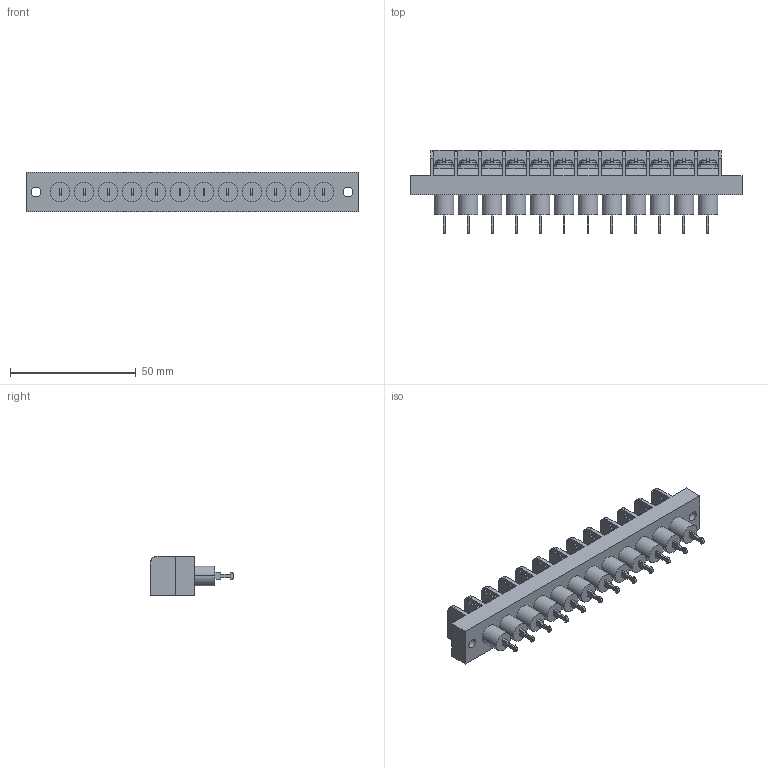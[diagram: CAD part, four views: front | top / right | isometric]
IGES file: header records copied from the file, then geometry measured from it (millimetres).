
Start section:  PTC IGES file: c-1-1546865-2-d-3d.igs
Global section: file name: c-1-1546865-2-d-3d.igs; native system: Pro/ENGINEER by Parametric Technology Corporation; preprocessor: 2009300; author: workeradm; organization: Unknown; units: millimetre
Bounding box: 131.8 x 33.27 x 15.88 mm (x, y, z)
Surface area: 19200.9 mm2 (no closed solid volume)
Topology: 0 solids, 0 shells, 1071 faces, 6486 edges, 6486 vertices
Faces by surface type: bspline 826, revolution 245
